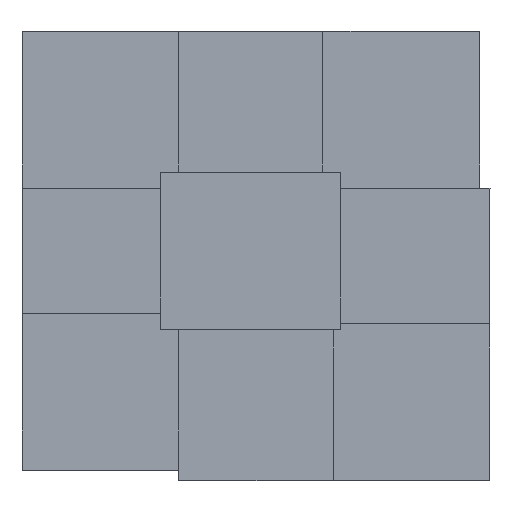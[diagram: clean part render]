
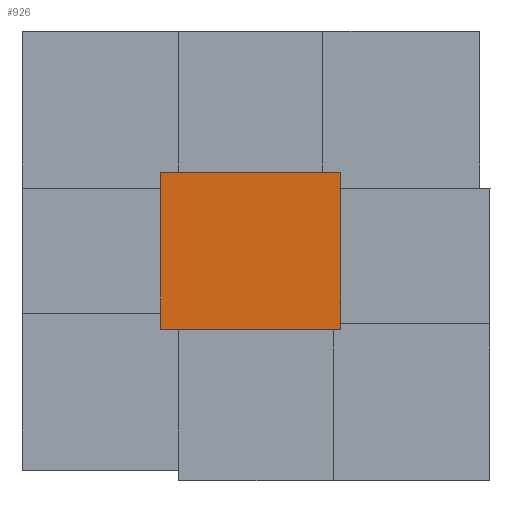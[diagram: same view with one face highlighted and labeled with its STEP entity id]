
A CAD part, left-side view. The second image highlights one B-rep face of the part: STEP entity #926.
In plain terms, the highlighted planar face has unit normal (-1, 0, 0).
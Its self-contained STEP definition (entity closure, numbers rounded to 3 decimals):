
#808=CARTESIAN_POINT('Line Origine',(0.,0.,50.)) ;
#812=CARTESIAN_POINT('Vertex',(0.,0.,0.)) ;
#814=CARTESIAN_POINT('Vertex',(0.,0.,100.)) ;
#883=CARTESIAN_POINT('Vertex',(0.,115.,0.)) ;
#886=CARTESIAN_POINT('Line Origine',(0.,115.,50.)) ;
#890=CARTESIAN_POINT('Vertex',(0.,115.,100.)) ;
#905=CARTESIAN_POINT('Axis2P3D Location',(0.,115.,0.)) ;
#910=CARTESIAN_POINT('Line Origine',(0.,57.5,0.)) ;
#915=CARTESIAN_POINT('Line Origine',(0.,57.5,100.)) ;
#809=DIRECTION('Vector Direction',(0.,0.,1.)) ;
#887=DIRECTION('Vector Direction',(0.,0.,1.)) ;
#906=DIRECTION('Axis2P3D Direction',(-1.,0.,0.)) ;
#907=DIRECTION('Axis2P3D XDirection',(0.,-1.,0.)) ;
#911=DIRECTION('Vector Direction',(0.,-1.,0.)) ;
#916=DIRECTION('Vector Direction',(0.,-1.,0.)) ;
#908=AXIS2_PLACEMENT_3D('Plane Axis2P3D',#905,#906,#907) ;
#921=ORIENTED_EDGE('',*,*,#892,.F.) ;
#922=ORIENTED_EDGE('',*,*,#914,.T.) ;
#923=ORIENTED_EDGE('',*,*,#816,.T.) ;
#924=ORIENTED_EDGE('',*,*,#919,.F.) ;
#810=VECTOR('Line Direction',#809,1.) ;
#888=VECTOR('Line Direction',#887,1.) ;
#912=VECTOR('Line Direction',#911,1.) ;
#917=VECTOR('Line Direction',#916,1.) ;
#926=ADVANCED_FACE('Body.2-molde-superior',(#925),#909,.T.) ;
#816=EDGE_CURVE('',#813,#815,#811,.T.) ;
#892=EDGE_CURVE('',#884,#891,#889,.T.) ;
#914=EDGE_CURVE('',#884,#813,#913,.T.) ;
#919=EDGE_CURVE('',#891,#815,#918,.T.) ;
#920=EDGE_LOOP('',(#921,#922,#923,#924)) ;
#925=FACE_OUTER_BOUND('',#920,.T.) ;
#811=LINE('Line',#808,#810) ;
#889=LINE('Line',#886,#888) ;
#913=LINE('Line',#910,#912) ;
#918=LINE('Line',#915,#917) ;
#909=PLANE('',#908) ;
#813=VERTEX_POINT('',#812) ;
#815=VERTEX_POINT('',#814) ;
#884=VERTEX_POINT('',#883) ;
#891=VERTEX_POINT('',#890) ;
